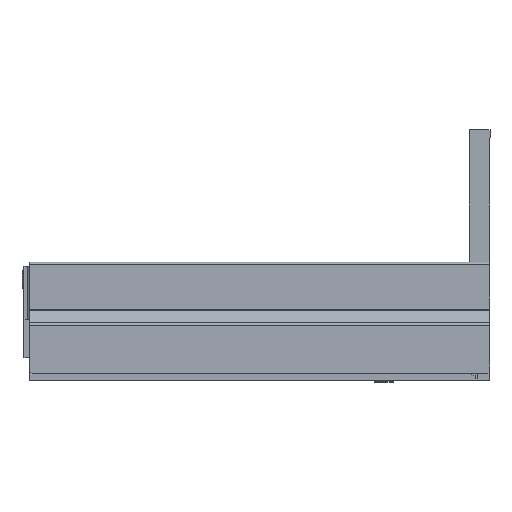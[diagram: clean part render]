
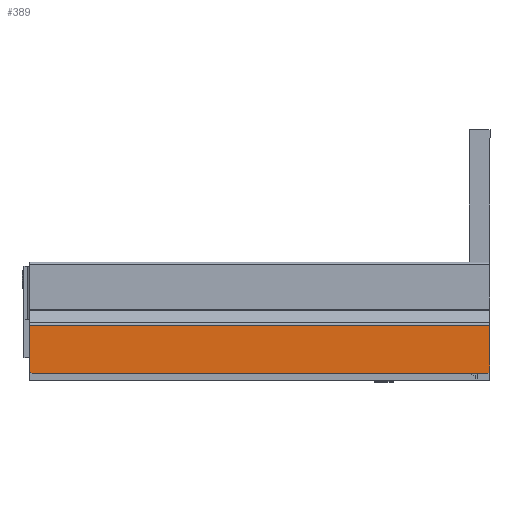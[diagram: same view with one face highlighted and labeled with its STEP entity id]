
A CAD part, left-side view. The second image highlights one B-rep face of the part: STEP entity #389.
In plain terms, the highlighted planar face has unit normal (-1, 0, 0).
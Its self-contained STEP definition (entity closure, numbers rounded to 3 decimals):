
#100 = VERTEX_POINT ( 'NONE', #1737 ) ;
#172 = CIRCLE ( 'NONE', #974, 1.001 ) ;
#319 = FACE_OUTER_BOUND ( 'NONE', #2960, .T. ) ;
#389 = ADVANCED_FACE ( 'NONE', ( #319 ), #1904, .T. ) ;
#496 = VECTOR ( 'NONE', #2040, 1000. ) ;
#497 = LINE ( 'NONE', #2106, #496 ) ;
#522 = VECTOR ( 'NONE', #1505, 1000. ) ;
#531 = LINE ( 'NONE', #1267, #632 ) ;
#594 = LINE ( 'NONE', #1287, #612 ) ;
#612 = VECTOR ( 'NONE', #1295, 1000. ) ;
#625 = CIRCLE ( 'NONE', #1173, 1.001 ) ;
#629 = LINE ( 'NONE', #1504, #522 ) ;
#632 = VECTOR ( 'NONE', #1303, 1000. ) ;
#643 = LINE ( 'NONE', #1508, #647 ) ;
#647 = VECTOR ( 'NONE', #1507, 1000. ) ;
#709 = LINE ( 'NONE', #1200, #750 ) ;
#750 = VECTOR ( 'NONE', #1199, 1000. ) ;
#884 = EDGE_CURVE ( 'NONE', #1733, #1646, #172, .T. ) ;
#909 = EDGE_CURVE ( 'NONE', #1636, #1638, #709, .T. ) ;
#974 = AXIS2_PLACEMENT_3D ( 'NONE', #1836, #1837, #2075 ) ;
#989 = EDGE_CURVE ( 'NONE', #100, #1765, #594, .T. ) ;
#1010 = EDGE_CURVE ( 'NONE', #1733, #1626, #531, .T. ) ;
#1012 = AXIS2_PLACEMENT_3D ( 'NONE', #1788, #1852, #1882 ) ;
#1018 = EDGE_CURVE ( 'NONE', #1646, #1636, #643, .T. ) ;
#1019 = EDGE_CURVE ( 'NONE', #1638, #1645, #629, .T. ) ;
#1074 = EDGE_CURVE ( 'NONE', #1626, #1765, #497, .T. ) ;
#1090 = EDGE_CURVE ( 'NONE', #1645, #100, #625, .T. ) ;
#1173 = AXIS2_PLACEMENT_3D ( 'NONE', #2041, #2122, #2176 ) ;
#1199 = DIRECTION ( 'NONE',  ( 0., -1., 0. ) ) ;
#1200 = CARTESIAN_POINT ( 'NONE',  ( -2.3, 347., -13.5 ) ) ;
#1267 = CARTESIAN_POINT ( 'NONE',  ( -2.3, 347., -13.5 ) ) ;
#1287 = CARTESIAN_POINT ( 'NONE',  ( -2.3, 0., -13.5 ) ) ;
#1295 = DIRECTION ( 'NONE',  ( 0., 0., 1. ) ) ;
#1303 = DIRECTION ( 'NONE',  ( 0., 0., 1. ) ) ;
#1504 = CARTESIAN_POINT ( 'NONE',  ( -2.3, 2.03, -13.5 ) ) ;
#1505 = DIRECTION ( 'NONE',  ( 0., -0.94, 0.342 ) ) ;
#1507 = DIRECTION ( 'NONE',  ( 0., -0.94, -0.342 ) ) ;
#1508 = CARTESIAN_POINT ( 'NONE',  ( -2.3, 344.97, -13.5 ) ) ;
#1626 = VERTEX_POINT ( 'NONE', #2356 ) ;
#1636 = VERTEX_POINT ( 'NONE', #2336 ) ;
#1638 = VERTEX_POINT ( 'NONE', #2269 ) ;
#1645 = VERTEX_POINT ( 'NONE', #2193 ) ;
#1646 = VERTEX_POINT ( 'NONE', #2227 ) ;
#1733 = VERTEX_POINT ( 'NONE', #2376 ) ;
#1737 = CARTESIAN_POINT ( 'NONE',  ( -2.3, 0., -12.06 ) ) ;
#1765 = VERTEX_POINT ( 'NONE', #2231 ) ;
#1788 = CARTESIAN_POINT ( 'NONE',  ( -2.3, 347., -13.5 ) ) ;
#1836 = CARTESIAN_POINT ( 'NONE',  ( -2.3, 345.999, -12.06 ) ) ;
#1837 = DIRECTION ( 'NONE',  ( -1., 0., 0. ) ) ;
#1852 = DIRECTION ( 'NONE',  ( -1., 0., 0. ) ) ;
#1882 = DIRECTION ( 'NONE',  ( 0., 1., 0. ) ) ;
#1904 = PLANE ( 'NONE',  #1012 ) ;
#2040 = DIRECTION ( 'NONE',  ( 0., -1., 0. ) ) ;
#2041 = CARTESIAN_POINT ( 'NONE',  ( -2.3, 1.001, -12.06 ) ) ;
#2075 = DIRECTION ( 'NONE',  ( 0., 1., 0. ) ) ;
#2106 = CARTESIAN_POINT ( 'NONE',  ( -2.3, 347., 22.566 ) ) ;
#2122 = DIRECTION ( 'NONE',  ( -1., 0., 0. ) ) ;
#2176 = DIRECTION ( 'NONE',  ( 0., -1., 0. ) ) ;
#2193 = CARTESIAN_POINT ( 'NONE',  ( -2.3, 0.659, -13.001 ) ) ;
#2227 = CARTESIAN_POINT ( 'NONE',  ( -2.3, 346.341, -13.001 ) ) ;
#2231 = CARTESIAN_POINT ( 'NONE',  ( -2.3, 0., 22.566 ) ) ;
#2269 = CARTESIAN_POINT ( 'NONE',  ( -2.3, 2.03, -13.5 ) ) ;
#2336 = CARTESIAN_POINT ( 'NONE',  ( -2.3, 344.97, -13.5 ) ) ;
#2356 = CARTESIAN_POINT ( 'NONE',  ( -2.3, 347., 22.566 ) ) ;
#2376 = CARTESIAN_POINT ( 'NONE',  ( -2.3, 347., -12.06 ) ) ;
#2804 = ORIENTED_EDGE ( 'NONE', *, *, #989, .T. ) ;
#2805 = ORIENTED_EDGE ( 'NONE', *, *, #1074, .F. ) ;
#2806 = ORIENTED_EDGE ( 'NONE', *, *, #1010, .F. ) ;
#2807 = ORIENTED_EDGE ( 'NONE', *, *, #884, .T. ) ;
#2809 = ORIENTED_EDGE ( 'NONE', *, *, #1018, .T. ) ;
#2810 = ORIENTED_EDGE ( 'NONE', *, *, #909, .T. ) ;
#2811 = ORIENTED_EDGE ( 'NONE', *, *, #1019, .T. ) ;
#2812 = ORIENTED_EDGE ( 'NONE', *, *, #1090, .T. ) ;
#2960 = EDGE_LOOP ( 'NONE', ( #2804, #2805, #2806, #2807, #2809, #2810, #2811, #2812 ) ) ;
